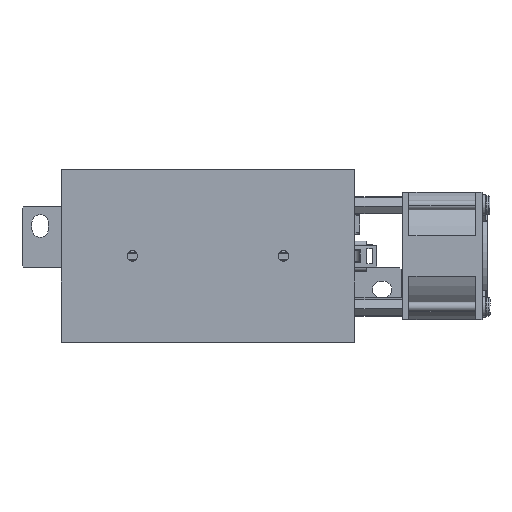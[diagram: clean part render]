
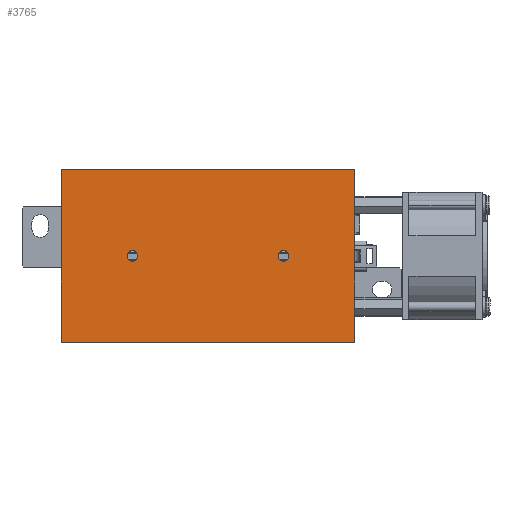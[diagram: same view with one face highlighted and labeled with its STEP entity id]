
A CAD part, top view. The second image highlights one B-rep face of the part: STEP entity #3765.
In plain terms, the highlighted planar face has unit normal (0, 0, 1).
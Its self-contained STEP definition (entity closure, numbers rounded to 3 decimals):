
#56 = AXIS2_PLACEMENT_3D ( 'NONE', #35465, #3335, #32073 ) ;
#362 = FACE_BOUND ( 'NONE', #31298, .T. ) ;
#927 = FACE_BOUND ( 'NONE', #28231, .T. ) ;
#1497 = VECTOR ( 'NONE', #26375, 1000. ) ;
#3069 = EDGE_CURVE ( 'NONE', #12107, #20019, #9766, .T. ) ;
#3335 = DIRECTION ( 'NONE',  ( 0., 0., -1. ) ) ;
#3636 = VERTEX_POINT ( 'NONE', #34388 ) ;
#3765 = ADVANCED_FACE ( 'NONE', ( #5315, #927, #362 ), #7163, .T. ) ;
#4147 = CARTESIAN_POINT ( 'NONE',  ( -46.823, 1.872, 115.373 ) ) ;
#4796 = EDGE_CURVE ( 'NONE', #35072, #21299, #10747, .T. ) ;
#5315 = FACE_OUTER_BOUND ( 'NONE', #40807, .T. ) ;
#5593 = CARTESIAN_POINT ( 'NONE',  ( -46.823, -52.528, 115.373 ) ) ;
#7160 = CARTESIAN_POINT ( 'NONE',  ( 45.577, -52.528, 115.373 ) ) ;
#7163 = PLANE ( 'NONE',  #36017 ) ;
#7292 = CIRCLE ( 'NONE', #56, 1.65 ) ;
#8250 = ORIENTED_EDGE ( 'NONE', *, *, #23499, .T. ) ;
#8853 = DIRECTION ( 'NONE',  ( 1., 0., 0. ) ) ;
#8992 = DIRECTION ( 'NONE',  ( 0., -1., 0. ) ) ;
#9766 = CIRCLE ( 'NONE', #23333, 1.65 ) ;
#10747 = LINE ( 'NONE', #11211, #41546 ) ;
#11081 = ORIENTED_EDGE ( 'NONE', *, *, #3069, .T. ) ;
#11136 = VERTEX_POINT ( 'NONE', #4147 ) ;
#11211 = CARTESIAN_POINT ( 'NONE',  ( 45.577, 55586.988, 115.373 ) ) ;
#11819 = EDGE_CURVE ( 'NONE', #11136, #43523, #39989, .T. ) ;
#12107 = VERTEX_POINT ( 'NONE', #28505 ) ;
#12177 = LINE ( 'NONE', #5593, #36942 ) ;
#12889 = CARTESIAN_POINT ( 'NONE',  ( -24.373, -25.328, 115.373 ) ) ;
#14511 = DIRECTION ( 'NONE',  ( 0., 0., 1. ) ) ;
#14968 = CARTESIAN_POINT ( 'NONE',  ( -46.823, 55586.988, 115.373 ) ) ;
#16034 = VECTOR ( 'NONE', #38207, 1000. ) ;
#18434 = DIRECTION ( 'NONE',  ( 0., -1., 0. ) ) ;
#18487 = CIRCLE ( 'NONE', #26970, 1.65 ) ;
#19143 = ORIENTED_EDGE ( 'NONE', *, *, #44271, .T. ) ;
#20019 = VERTEX_POINT ( 'NONE', #34233 ) ;
#21299 = VERTEX_POINT ( 'NONE', #36058 ) ;
#22579 = DIRECTION ( 'NONE',  ( 0., -1., 0. ) ) ;
#22967 = CARTESIAN_POINT ( 'NONE',  ( -46.823, -52.528, 115.373 ) ) ;
#23333 = AXIS2_PLACEMENT_3D ( 'NONE', #29593, #44050, #8992 ) ;
#23499 = EDGE_CURVE ( 'NONE', #43523, #35072, #12177, .T. ) ;
#23956 = DIRECTION ( 'NONE',  ( 0., 0., -1. ) ) ;
#24123 = VERTEX_POINT ( 'NONE', #30754 ) ;
#25393 = LINE ( 'NONE', #34670, #16034 ) ;
#25965 = DIRECTION ( 'NONE',  ( 0., 0., -1. ) ) ;
#26375 = DIRECTION ( 'NONE',  ( 0., -1., 0. ) ) ;
#26970 = AXIS2_PLACEMENT_3D ( 'NONE', #43674, #25965, #22579 ) ;
#26996 = ORIENTED_EDGE ( 'NONE', *, *, #32799, .T. ) ;
#28231 = EDGE_LOOP ( 'NONE', ( #38120, #42587 ) ) ;
#28505 = CARTESIAN_POINT ( 'NONE',  ( 23.127, -26.978, 115.373 ) ) ;
#29593 = CARTESIAN_POINT ( 'NONE',  ( 23.127, -25.328, 115.373 ) ) ;
#29742 = EDGE_CURVE ( 'NONE', #24123, #3636, #41627, .T. ) ;
#30192 = ORIENTED_EDGE ( 'NONE', *, *, #11819, .T. ) ;
#30754 = CARTESIAN_POINT ( 'NONE',  ( -24.373, -23.678, 115.373 ) ) ;
#31298 = EDGE_LOOP ( 'NONE', ( #11081, #26996 ) ) ;
#32073 = DIRECTION ( 'NONE',  ( 0., -1., 0. ) ) ;
#32799 = EDGE_CURVE ( 'NONE', #20019, #12107, #7292, .T. ) ;
#34233 = CARTESIAN_POINT ( 'NONE',  ( 23.127, -23.678, 115.373 ) ) ;
#34388 = CARTESIAN_POINT ( 'NONE',  ( -24.373, -26.978, 115.373 ) ) ;
#34670 = CARTESIAN_POINT ( 'NONE',  ( -46.823, 1.872, 115.373 ) ) ;
#35072 = VERTEX_POINT ( 'NONE', #7160 ) ;
#35465 = CARTESIAN_POINT ( 'NONE',  ( 23.127, -25.328, 115.373 ) ) ;
#36017 = AXIS2_PLACEMENT_3D ( 'NONE', #14968, #14511, #42547 ) ;
#36058 = CARTESIAN_POINT ( 'NONE',  ( 45.577, 1.872, 115.373 ) ) ;
#36942 = VECTOR ( 'NONE', #8853, 1000. ) ;
#37123 = EDGE_CURVE ( 'NONE', #3636, #24123, #18487, .T. ) ;
#38120 = ORIENTED_EDGE ( 'NONE', *, *, #37123, .T. ) ;
#38155 = ORIENTED_EDGE ( 'NONE', *, *, #4796, .T. ) ;
#38207 = DIRECTION ( 'NONE',  ( -1., 0., 0. ) ) ;
#39677 = AXIS2_PLACEMENT_3D ( 'NONE', #12889, #23956, #18434 ) ;
#39989 = LINE ( 'NONE', #40366, #1497 ) ;
#40366 = CARTESIAN_POINT ( 'NONE',  ( -46.823, 55586.988, 115.373 ) ) ;
#40807 = EDGE_LOOP ( 'NONE', ( #30192, #8250, #38155, #19143 ) ) ;
#41546 = VECTOR ( 'NONE', #42906, 1000. ) ;
#41627 = CIRCLE ( 'NONE', #39677, 1.65 ) ;
#42547 = DIRECTION ( 'NONE',  ( 0., -1., 0. ) ) ;
#42587 = ORIENTED_EDGE ( 'NONE', *, *, #29742, .T. ) ;
#42906 = DIRECTION ( 'NONE',  ( 0., 1., 0. ) ) ;
#43523 = VERTEX_POINT ( 'NONE', #22967 ) ;
#43674 = CARTESIAN_POINT ( 'NONE',  ( -24.373, -25.328, 115.373 ) ) ;
#44050 = DIRECTION ( 'NONE',  ( 0., 0., -1. ) ) ;
#44271 = EDGE_CURVE ( 'NONE', #21299, #11136, #25393, .T. ) ;
